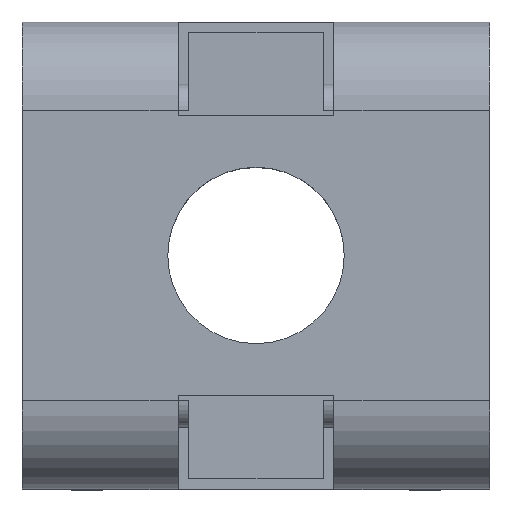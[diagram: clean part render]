
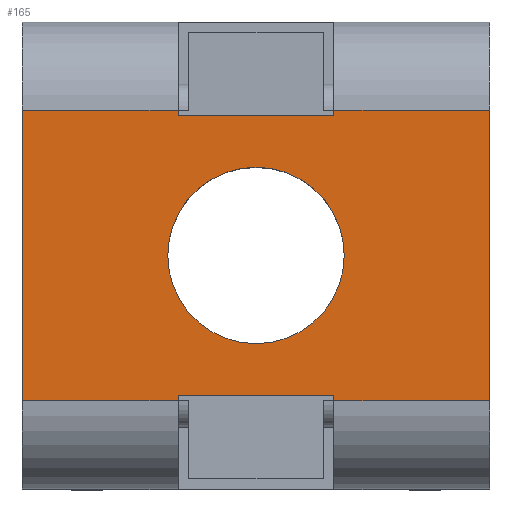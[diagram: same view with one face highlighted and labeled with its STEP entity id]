
A CAD part, top view. The second image highlights one B-rep face of the part: STEP entity #165.
In plain terms, the highlighted planar face has unit normal (0, 0, 1).
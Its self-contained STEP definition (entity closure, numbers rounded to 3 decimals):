
#107=FACE_BOUND('',#364,.T.);
#108=FACE_BOUND('',#365,.T.);
#165=ADVANCED_FACE('',(#107,#108),#236,.F.);
#236=PLANE('',#1753);
#364=EDGE_LOOP('',(#666));
#365=EDGE_LOOP('',(#667,#668,#669,#670,#671,#672,#673,#674,#675,#676,#677,
#678));
#477=CIRCLE('',#1752,1.7);
#666=ORIENTED_EDGE('',*,*,#1250,.F.);
#667=ORIENTED_EDGE('',*,*,#1251,.T.);
#668=ORIENTED_EDGE('',*,*,#1252,.T.);
#669=ORIENTED_EDGE('',*,*,#1225,.T.);
#670=ORIENTED_EDGE('',*,*,#1130,.T.);
#671=ORIENTED_EDGE('',*,*,#1240,.F.);
#672=ORIENTED_EDGE('',*,*,#1253,.T.);
#673=ORIENTED_EDGE('',*,*,#1254,.F.);
#674=ORIENTED_EDGE('',*,*,#1255,.F.);
#675=ORIENTED_EDGE('',*,*,#1256,.F.);
#676=ORIENTED_EDGE('',*,*,#1112,.F.);
#677=ORIENTED_EDGE('',*,*,#1228,.T.);
#678=ORIENTED_EDGE('',*,*,#1257,.F.);
#956=VERTEX_POINT('',#2281);
#957=VERTEX_POINT('',#2283);
#974=VERTEX_POINT('',#2318);
#975=VERTEX_POINT('',#2320);
#1059=VERTEX_POINT('',#2506);
#1060=VERTEX_POINT('',#2510);
#1068=VERTEX_POINT('',#2533);
#1069=VERTEX_POINT('',#2551);
#1070=VERTEX_POINT('',#2553);
#1071=VERTEX_POINT('',#2554);
#1072=VERTEX_POINT('',#2557);
#1073=VERTEX_POINT('',#2559);
#1074=VERTEX_POINT('',#2561);
#1112=EDGE_CURVE('',#956,#957,#1343,.T.);
#1130=EDGE_CURVE('',#975,#974,#1355,.T.);
#1225=EDGE_CURVE('',#1059,#975,#1415,.T.);
#1228=EDGE_CURVE('',#956,#1060,#1416,.T.);
#1240=EDGE_CURVE('',#1068,#974,#1425,.T.);
#1250=EDGE_CURVE('',#1069,#1069,#477,.T.);
#1251=EDGE_CURVE('',#1070,#1071,#1434,.T.);
#1252=EDGE_CURVE('',#1071,#1059,#1435,.T.);
#1253=EDGE_CURVE('',#1068,#1072,#1436,.T.);
#1254=EDGE_CURVE('',#1073,#1072,#1437,.T.);
#1255=EDGE_CURVE('',#1074,#1073,#1438,.T.);
#1256=EDGE_CURVE('',#957,#1074,#1439,.T.);
#1257=EDGE_CURVE('',#1070,#1060,#1440,.T.);
#1343=LINE('',#2282,#1515);
#1355=LINE('',#2319,#1527);
#1415=LINE('',#2505,#1587);
#1416=LINE('',#2511,#1588);
#1425=LINE('',#2534,#1597);
#1434=LINE('',#2552,#1606);
#1435=LINE('',#2555,#1607);
#1436=LINE('',#2556,#1608);
#1437=LINE('',#2558,#1609);
#1438=LINE('',#2560,#1610);
#1439=LINE('',#2562,#1611);
#1440=LINE('',#2563,#1612);
#1515=VECTOR('',#1830,1.);
#1527=VECTOR('',#1856,1.);
#1587=VECTOR('',#2000,1.);
#1588=VECTOR('',#2007,1.);
#1597=VECTOR('',#2028,1.);
#1606=VECTOR('',#2053,1.);
#1607=VECTOR('',#2054,1.);
#1608=VECTOR('',#2055,1.);
#1609=VECTOR('',#2056,1.);
#1610=VECTOR('',#2057,1.);
#1611=VECTOR('',#2058,1.);
#1612=VECTOR('',#2059,1.);
#1752=AXIS2_PLACEMENT_3D('',#2550,#2051,#2052);
#1753=AXIS2_PLACEMENT_3D('',#2564,#2060,#2061);
#1830=DIRECTION('',(0.,-1.,0.));
#1856=DIRECTION('',(0.,-1.,0.));
#2000=DIRECTION('',(-1.,0.,0.));
#2007=DIRECTION('',(-1.,0.,0.));
#2028=DIRECTION('',(-1.,0.,0.));
#2051=DIRECTION('',(0.,0.,1.));
#2052=DIRECTION('',(-1.,0.,0.));
#2053=DIRECTION('',(-1.,0.,0.));
#2054=DIRECTION('',(0.,1.,0.));
#2055=DIRECTION('',(0.,1.,0.));
#2056=DIRECTION('',(-1.,0.,0.));
#2057=DIRECTION('',(0.,1.,0.));
#2058=DIRECTION('',(-1.,0.,0.));
#2059=DIRECTION('',(0.,1.,0.));
#2060=DIRECTION('',(0.,0.,-1.));
#2061=DIRECTION('',(1.,0.,0.));
#2281=CARTESIAN_POINT('',(9.,7.3,10.));
#2282=CARTESIAN_POINT('',(9.,7.3,10.));
#2283=CARTESIAN_POINT('',(9.,1.7,10.));
#2318=CARTESIAN_POINT('',(0.,1.7,10.));
#2319=CARTESIAN_POINT('',(0.,4.5,10.));
#2320=CARTESIAN_POINT('',(0.,7.3,10.));
#2505=CARTESIAN_POINT('',(9.,7.3,10.));
#2506=CARTESIAN_POINT('',(3.,7.3,10.));
#2510=CARTESIAN_POINT('',(6.,7.3,10.));
#2511=CARTESIAN_POINT('',(9.,7.3,10.));
#2533=CARTESIAN_POINT('',(3.,1.7,10.));
#2534=CARTESIAN_POINT('',(9.,1.7,10.));
#2550=CARTESIAN_POINT('',(4.5,4.5,10.));
#2551=CARTESIAN_POINT('',(2.8,4.5,10.));
#2552=CARTESIAN_POINT('',(6.,7.2,10.));
#2553=CARTESIAN_POINT('',(6.,7.2,10.));
#2554=CARTESIAN_POINT('',(3.,7.2,10.));
#2555=CARTESIAN_POINT('',(3.,7.2,10.));
#2556=CARTESIAN_POINT('',(3.,1.8,10.));
#2557=CARTESIAN_POINT('',(3.,1.8,10.));
#2558=CARTESIAN_POINT('',(6.,1.8,10.));
#2559=CARTESIAN_POINT('',(6.,1.8,10.));
#2560=CARTESIAN_POINT('',(6.,1.8,10.));
#2561=CARTESIAN_POINT('',(6.,1.7,10.));
#2562=CARTESIAN_POINT('',(9.,1.7,10.));
#2563=CARTESIAN_POINT('',(6.,7.2,10.));
#2564=CARTESIAN_POINT('',(9.,4.5,10.));
